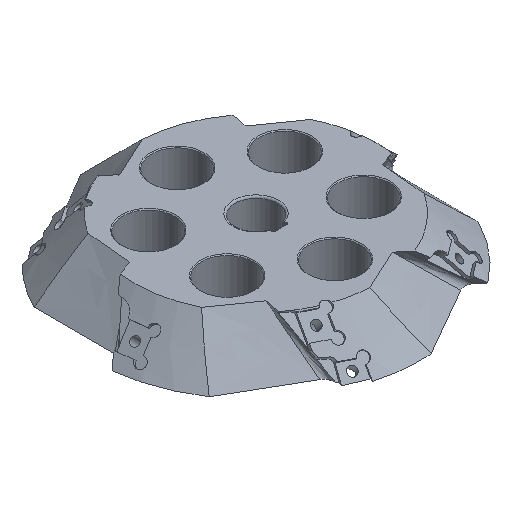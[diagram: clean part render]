
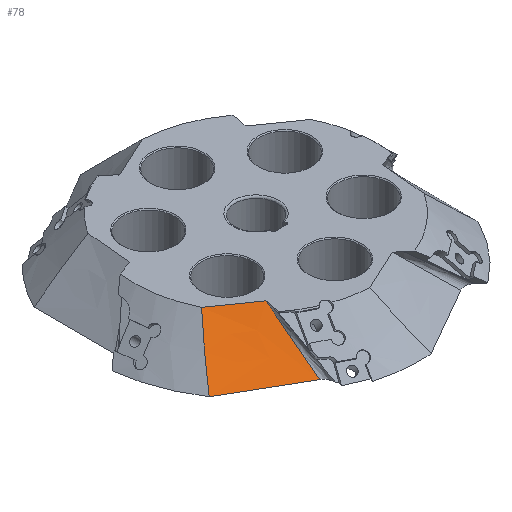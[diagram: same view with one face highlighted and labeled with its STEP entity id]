
A CAD part, isometric view. The second image highlights one B-rep face of the part: STEP entity #78.
In plain terms, the highlighted free-form (B-spline) face has degree [3, 3] with [6, 4] control points.
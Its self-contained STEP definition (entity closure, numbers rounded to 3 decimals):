
#78=ADVANCED_FACE('',(#513),#515,.F.);
#513=FACE_BOUND('',#514,.T.);
#514=EDGE_LOOP('',(#2102,#2103,#2104,#2105));
#515=B_SPLINE_SURFACE_WITH_KNOTS('',3,3,(
(#516,#517,#518,#519),
(#520,#521,#522,#523),
(#524,#525,#526,#527),
(#528,#529,#530,#531),
(#532,#533,#534,#535),
(#536,#537,#538,#539)),
.UNSPECIFIED.,.F.,.F.,.F.,
(4,1,1,4),
(4,4),
(0.,0.332,0.665,0.997),
(0.,1.),
.UNSPECIFIED.);
#516=CARTESIAN_POINT('',(-38.827,-75.203,-12.6));
#517=CARTESIAN_POINT('',(-39.356,-65.493,-4.2));
#518=CARTESIAN_POINT('',(-39.885,-55.783,4.2));
#519=CARTESIAN_POINT('',(-40.414,-46.072,12.6));
#520=CARTESIAN_POINT('',(-43.303,-72.619,-12.6));
#521=CARTESIAN_POINT('',(-43.15,-63.202,-4.2));
#522=CARTESIAN_POINT('',(-42.998,-53.784,4.2));
#523=CARTESIAN_POINT('',(-42.845,-44.367,12.6));
#524=CARTESIAN_POINT('',(-52.254,-67.451,-12.6));
#525=CARTESIAN_POINT('',(-50.739,-58.62,-4.2));
#526=CARTESIAN_POINT('',(-49.224,-49.788,4.2));
#527=CARTESIAN_POINT('',(-47.708,-40.957,12.6));
#528=CARTESIAN_POINT('',(-65.682,-59.699,-12.6));
#529=CARTESIAN_POINT('',(-62.122,-51.746,-4.2));
#530=CARTESIAN_POINT('',(-58.563,-43.793,4.2));
#531=CARTESIAN_POINT('',(-55.003,-35.841,12.6));
#532=CARTESIAN_POINT('',(-74.633,-54.531,-12.6));
#533=CARTESIAN_POINT('',(-69.711,-47.164,-4.2));
#534=CARTESIAN_POINT('',(-64.789,-39.797,4.2));
#535=CARTESIAN_POINT('',(-59.867,-32.43,12.6));
#536=CARTESIAN_POINT('',(-79.109,-51.947,-12.6));
#537=CARTESIAN_POINT('',(-73.505,-44.873,-4.2));
#538=CARTESIAN_POINT('',(-67.902,-37.799,4.2));
#539=CARTESIAN_POINT('',(-62.298,-30.725,12.6));
#2102=ORIENTED_EDGE('',*,*,#2734,.F.);
#2103=ORIENTED_EDGE('',*,*,#2803,.F.);
#2104=ORIENTED_EDGE('',*,*,#2841,.T.);
#2105=ORIENTED_EDGE('',*,*,#2778,.F.);
#2734=EDGE_CURVE('',#3180,#3182,#3183,.T.);
#2778=EDGE_CURVE('',#3182,#3262,#3263,.F.);
#2803=EDGE_CURVE('',#3309,#3180,#3311,.T.);
#2841=EDGE_CURVE('',#3309,#3262,#3384,.T.);
#3180=VERTEX_POINT('',#4439);
#3182=VERTEX_POINT('',#4444);
#3183=B_SPLINE_CURVE_WITH_KNOTS('',3,
(#4445,#4446,#4447,#4448,#4449,#4450,#4451,#4452,#4453,#4454,#4455,#4456,#4457,#4458,
#4459,#4460,#4461,#4462,#4463),
.UNSPECIFIED.,.F.,.F.,
(4,1,1,1,1,1,1,1,1,1,1,1,1,1,1,1,4),
(0.,0.068,0.136,0.204,0.271,0.337,
0.402,0.466,0.529,0.591,0.652,
0.712,0.771,0.829,0.887,0.943,
1.),
.UNSPECIFIED.);
#3262=VERTEX_POINT('',#4751);
#3263=LINE('',#4752,#4753);
#3309=VERTEX_POINT('',#4858);
#3311=LINE('',#4863,#4864);
#3384=LINE('',#5041,#5042);
#4439=CARTESIAN_POINT('',(-78.839,-52.102,-12.6));
#4444=CARTESIAN_POINT('',(-62.019,-30.921,12.6));
#4445=CARTESIAN_POINT('',(-78.839,-52.102,-12.6));
#4446=CARTESIAN_POINT('',(-78.477,-51.604,-12.024));
#4447=CARTESIAN_POINT('',(-77.754,-50.613,-10.875));
#4448=CARTESIAN_POINT('',(-76.664,-49.135,-9.158));
#4449=CARTESIAN_POINT('',(-75.576,-47.675,-7.456));
#4450=CARTESIAN_POINT('',(-74.49,-46.233,-5.77));
#4451=CARTESIAN_POINT('',(-73.409,-44.814,-4.106));
#4452=CARTESIAN_POINT('',(-72.335,-43.42,-2.465));
#4453=CARTESIAN_POINT('',(-71.272,-42.056,-0.854));
#4454=CARTESIAN_POINT('',(-70.215,-40.717,0.734));
#4455=CARTESIAN_POINT('',(-69.168,-39.405,2.295));
#4456=CARTESIAN_POINT('',(-68.127,-38.118,3.834));
#4457=CARTESIAN_POINT('',(-67.099,-36.862,5.343));
#4458=CARTESIAN_POINT('',(-66.077,-35.631,6.829));
#4459=CARTESIAN_POINT('',(-65.062,-34.425,8.293));
#4460=CARTESIAN_POINT('',(-64.048,-33.239,9.741));
#4461=CARTESIAN_POINT('',(-63.037,-32.072,11.174));
#4462=CARTESIAN_POINT('',(-62.359,-31.302,12.126));
#4463=CARTESIAN_POINT('',(-62.019,-30.921,12.6));
#4751=CARTESIAN_POINT('',(-40.414,-46.072,12.6));
#4752=CARTESIAN_POINT('',(-40.414,-46.072,12.6));
#4753=VECTOR('',#4754,1.);
#4754=DIRECTION('',(-0.819,0.574,0.));
#4858=CARTESIAN_POINT('',(-38.827,-75.203,-12.6));
#4863=CARTESIAN_POINT('',(-38.827,-75.203,-12.6));
#4864=VECTOR('',#4865,1.);
#4865=DIRECTION('',(-0.866,0.5,0.));
#5041=CARTESIAN_POINT('',(-38.827,-75.203,-12.6));
#5042=VECTOR('',#5043,1.);
#5043=DIRECTION('',(-0.041,0.756,0.654));
